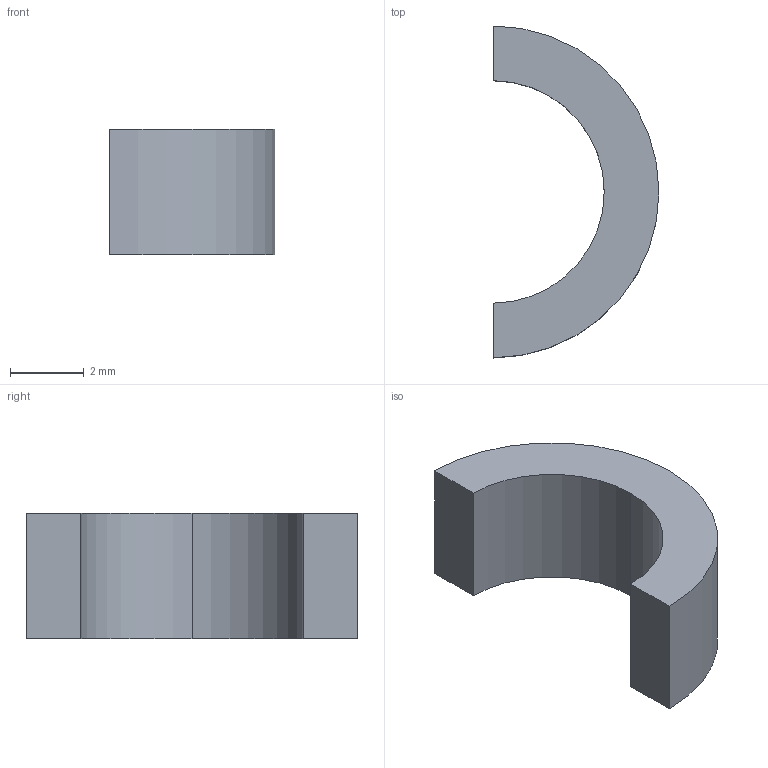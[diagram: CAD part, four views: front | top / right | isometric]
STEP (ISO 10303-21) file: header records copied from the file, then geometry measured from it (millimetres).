
FILE_DESCRIPTION(('Open CASCADE Model'),'2;1');
FILE_NAME('Open CASCADE Shape Model','2026-09-24T02:53:19',('Author'),( 'Open CASCADE'),'Open CASCADE STEP processor 7.8','Open CASCADE 7.8' ,'Unknown');
FILE_SCHEMA(('AUTOMOTIVE_DESIGN { 1 0 10303 214 1 1 1 1 }'));
Length unit declared in the file: millimetre
Products named in the file (1): Open CASCADE STEP translator 7.8 9
Bounding box: 4.49 x 8.98 x 3.4 mm (x, y, z)
Volume: 59.3 mm3; surface area: 125 mm2
Topology: 1 solids, 1 shells, 8 faces, 18 edges, 12 vertices
Faces by surface type: cylinder 4, plane 4
Entity records: 458 total; most frequent: CARTESIAN_POINT 91, DIRECTION 64, ORIENTED_EDGE 36, PCURVE 36, DEFINITIONAL_REPRESENTATION 36, LINE 22, VECTOR 22, EDGE_CURVE 18
